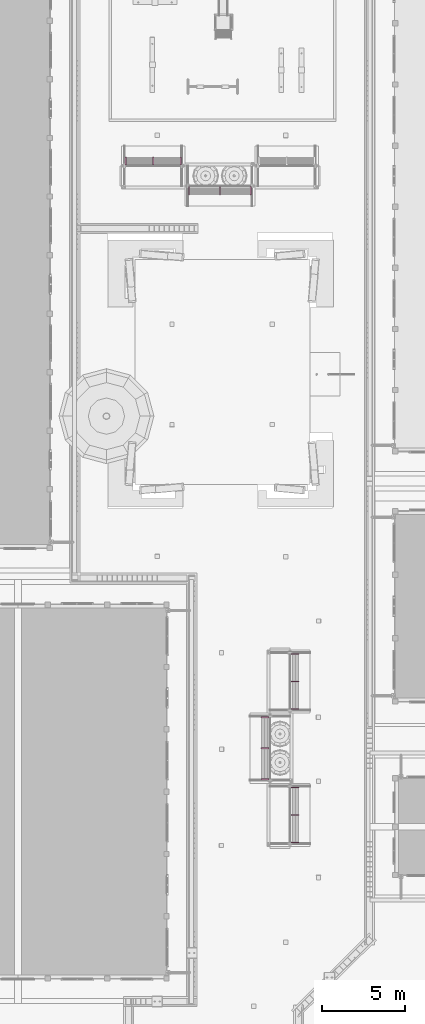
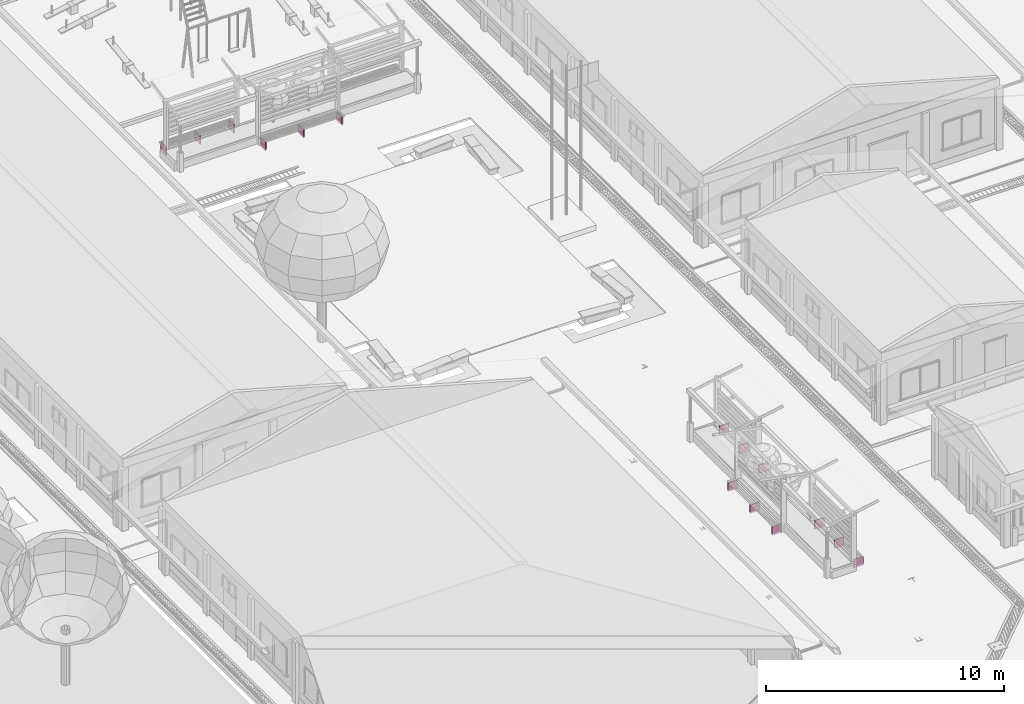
# One storey, part 141 of 166: 15 furnishings.
"""IFC2X3 building model written with IfcOpenShell, lengths in metres."""

from ifc_helpers import new_model, si_unit, origin, origin_with_axes, place, context, subcontext, project, spatial, faceted_brep, element, save


model = new_model("IFC2X3")

# Units and contexts
model_context = context("Model", 3, precision=1e-05, world=origin_with_axes())
body_context = subcontext(model_context, "Body", "Model", "MODEL_VIEW")
ifc_project = project(units=[si_unit("LENGTHUNIT", "METRE"), si_unit("AREAUNIT", "SQUARE_METRE"), si_unit("VOLUMEUNIT", "CUBIC_METRE"), si_unit("PLANEANGLEUNIT", "RADIAN")], contexts=[model_context])

# Site, building, storey
site_placement = place(None, origin_with_axes())
site = spatial("IfcSite", under=ifc_project, at=site_placement, Name="Predio Los Mangos - Morales, San Martín", CompositionType="ELEMENT")
building_placement = place(site_placement, origin())
building = spatial("IfcBuilding", under=site, at=building_placement, Name="Hogar de Refugio Temporal", CompositionType="ELEMENT")
storey_placement = place(building_placement, origin())
storey = spatial("IfcBuildingStorey", under=building, at=storey_placement, Name="NIVEL 1 (NPT +0.00)", CompositionType="ELEMENT", Elevation=0.0)

# Furnishings
furnishing_1_placement = place(storey_placement, origin())
element("IfcFurnishingElement", 1, at=furnishing_1_placement, inside=storey, Name="oc01_pata", ObjectType="Mobiliario exterior / juegos", context=body_context, shape_type="Brep", body=[
    faceted_brep([(39.52, 34.43, 0.0), (39.06, 34.43, 0.0), (39.06, 34.48, 0.0), (39.52, 34.48, 0.0), (39.52, 34.43, 0.44), (39.52, 34.48, 0.44), (39.06, 34.48, 0.44), (39.06, 34.43, 0.44)], [[[0, 1, 2, 3]], [[4, 5, 6, 7]], [[0, 3, 5, 4]], [[3, 2, 6, 5]], [[2, 1, 7, 6]], [[1, 0, 4, 7]]]),
])
furnishing_2_placement = place(storey_placement, origin())
element("IfcFurnishingElement", 2, at=furnishing_2_placement, inside=storey, Name="oc01_pata", ObjectType="Mobiliario exterior / juegos", context=body_context, shape_type="Brep", body=[
    faceted_brep([(39.52, 36.075, 0.0), (39.06, 36.075, 0.0), (39.06, 36.125, 0.0), (39.52, 36.125, 0.0), (39.52, 36.075, 0.44), (39.52, 36.125, 0.44), (39.06, 36.125, 0.44), (39.06, 36.075, 0.44)], [[[0, 1, 2, 3]], [[4, 5, 6, 7]], [[0, 3, 5, 4]], [[3, 2, 6, 5]], [[2, 1, 7, 6]], [[1, 0, 4, 7]]]),
])
furnishing_3_placement = place(storey_placement, origin())
element("IfcFurnishingElement", 3, at=furnishing_3_placement, inside=storey, Name="oc01_pata", ObjectType="Mobiliario exterior / juegos", context=body_context, shape_type="Brep", body=[
    faceted_brep([(39.52, 37.72, 0.0), (39.06, 37.72, 0.0), (39.06, 37.77, 0.0), (39.52, 37.77, 0.0), (39.52, 37.72, 0.44), (39.52, 37.77, 0.44), (39.06, 37.77, 0.44), (39.06, 37.72, 0.44)], [[[0, 1, 2, 3]], [[4, 5, 6, 7]], [[0, 3, 5, 4]], [[3, 2, 6, 5]], [[2, 1, 7, 6]], [[1, 0, 4, 7]]]),
])
furnishing_4_placement = place(storey_placement, origin())
element("IfcFurnishingElement", 4, at=furnishing_4_placement, inside=storey, Name="oc01_pata", ObjectType="Mobiliario exterior / juegos", context=body_context, shape_type="Brep", body=[
    faceted_brep([(37.74, 38.22, 0.0), (37.28, 38.22, 0.0), (37.28, 38.27, 0.0), (37.74, 38.27, 0.0), (37.74, 38.22, 0.44), (37.74, 38.27, 0.44), (37.28, 38.27, 0.44), (37.28, 38.22, 0.44)], [[[0, 1, 2, 3]], [[4, 5, 6, 7]], [[0, 3, 5, 4]], [[3, 2, 6, 5]], [[2, 1, 7, 6]], [[1, 0, 4, 7]]]),
])
furnishing_5_placement = place(storey_placement, origin())
element("IfcFurnishingElement", 5, at=furnishing_5_placement, inside=storey, Name="oc01_pata", ObjectType="Mobiliario exterior / juegos", context=body_context, shape_type="Brep", body=[
    faceted_brep([(37.74, 40.075, 0.0), (37.28, 40.075, 0.0), (37.28, 40.125, 0.0), (37.74, 40.125, 0.0), (37.74, 40.075, 0.44), (37.74, 40.125, 0.44), (37.28, 40.125, 0.44), (37.28, 40.075, 0.44)], [[[0, 1, 2, 3]], [[4, 5, 6, 7]], [[0, 3, 5, 4]], [[3, 2, 6, 5]], [[2, 1, 7, 6]], [[1, 0, 4, 7]]]),
])
furnishing_6_placement = place(storey_placement, origin())
element("IfcFurnishingElement", 6, at=furnishing_6_placement, inside=storey, Name="oc01_pata", ObjectType="Mobiliario exterior / juegos", context=body_context, shape_type="Brep", body=[
    faceted_brep([(37.74, 41.93, 0.0), (37.28, 41.93, 0.0), (37.28, 41.98, 0.0), (37.74, 41.98, 0.0), (37.74, 41.93, 0.44), (37.74, 41.98, 0.44), (37.28, 41.98, 0.44), (37.28, 41.93, 0.44)], [[[0, 1, 2, 3]], [[4, 5, 6, 7]], [[0, 3, 5, 4]], [[3, 2, 6, 5]], [[2, 1, 7, 6]], [[1, 0, 4, 7]]]),
])
furnishing_7_placement = place(storey_placement, origin())
element("IfcFurnishingElement", 7, at=furnishing_7_placement, inside=storey, Name="oc01_pata", ObjectType="Mobiliario exterior / juegos", context=body_context, shape_type="Brep", body=[
    faceted_brep([(39.52, 42.43, 0.0), (39.06, 42.43, 0.0), (39.06, 42.48, 0.0), (39.52, 42.48, 0.0), (39.52, 42.43, 0.44), (39.52, 42.48, 0.44), (39.06, 42.48, 0.44), (39.06, 42.43, 0.44)], [[[0, 1, 2, 3]], [[4, 5, 6, 7]], [[0, 3, 5, 4]], [[3, 2, 6, 5]], [[2, 1, 7, 6]], [[1, 0, 4, 7]]]),
])
furnishing_8_placement = place(storey_placement, origin())
element("IfcFurnishingElement", 8, at=furnishing_8_placement, inside=storey, Name="oc01_pata", ObjectType="Mobiliario exterior / juegos", context=body_context, shape_type="Brep", body=[
    faceted_brep([(39.52, 44.075, 0.0), (39.06, 44.075, 0.0), (39.06, 44.125, 0.0), (39.52, 44.125, 0.0), (39.52, 44.075, 0.44), (39.52, 44.125, 0.44), (39.06, 44.125, 0.44), (39.06, 44.075, 0.44)], [[[0, 1, 2, 3]], [[4, 5, 6, 7]], [[0, 3, 5, 4]], [[3, 2, 6, 5]], [[2, 1, 7, 6]], [[1, 0, 4, 7]]]),
])
furnishing_9_placement = place(storey_placement, origin())
element("IfcFurnishingElement", 9, at=furnishing_9_placement, inside=storey, Name="oc01_pata", ObjectType="Mobiliario exterior / juegos", context=body_context, shape_type="Brep", body=[
    faceted_brep([(39.52, 45.72, 0.0), (39.06, 45.72, 0.0), (39.06, 45.77, 0.0), (39.52, 45.77, 0.0), (39.52, 45.72, 0.44), (39.52, 45.77, 0.44), (39.06, 45.77, 0.44), (39.06, 45.72, 0.44)], [[[0, 1, 2, 3]], [[4, 5, 6, 7]], [[0, 3, 5, 4]], [[3, 2, 6, 5]], [[2, 1, 7, 6]], [[1, 0, 4, 7]]]),
])
furnishing_10_placement = place(storey_placement, origin())
element("IfcFurnishingElement", 10, at=furnishing_10_placement, inside=storey, Name="oc01_pata", ObjectType="Mobiliario exterior / juegos", context=body_context, shape_type="Brep", body=[
    faceted_brep([(36.68, 73.74, 0.0), (36.68, 73.28, 0.0), (36.63, 73.28, 0.0), (36.63, 73.74, 0.0), (36.68, 73.74, 0.44), (36.63, 73.74, 0.44), (36.63, 73.28, 0.44), (36.68, 73.28, 0.44)], [[[0, 1, 2, 3]], [[4, 5, 6, 7]], [[0, 3, 5, 4]], [[3, 2, 6, 5]], [[2, 1, 7, 6]], [[1, 0, 4, 7]]]),
])
furnishing_11_placement = place(storey_placement, origin())
element("IfcFurnishingElement", 11, at=furnishing_11_placement, inside=storey, Name="oc01_pata", ObjectType="Mobiliario exterior / juegos", context=body_context, shape_type="Brep", body=[
    faceted_brep([(34.825, 73.74, 0.0), (34.825, 73.28, 0.0), (34.775, 73.28, 0.0), (34.775, 73.74, 0.0), (34.825, 73.74, 0.44), (34.775, 73.74, 0.44), (34.775, 73.28, 0.44), (34.825, 73.28, 0.44)], [[[0, 1, 2, 3]], [[4, 5, 6, 7]], [[0, 3, 5, 4]], [[3, 2, 6, 5]], [[2, 1, 7, 6]], [[1, 0, 4, 7]]]),
])
furnishing_12_placement = place(storey_placement, origin())
element("IfcFurnishingElement", 12, at=furnishing_12_placement, inside=storey, Name="oc01_pata", ObjectType="Mobiliario exterior / juegos", context=body_context, shape_type="Brep", body=[
    faceted_brep([(32.97, 73.74, 0.0), (32.97, 73.28, 0.0), (32.92, 73.28, 0.0), (32.92, 73.74, 0.0), (32.97, 73.74, 0.44), (32.92, 73.74, 0.44), (32.92, 73.28, 0.44), (32.97, 73.28, 0.44)], [[[0, 1, 2, 3]], [[4, 5, 6, 7]], [[0, 3, 5, 4]], [[3, 2, 6, 5]], [[2, 1, 7, 6]], [[1, 0, 4, 7]]]),
])
furnishing_13_placement = place(storey_placement, origin())
element("IfcFurnishingElement", 13, at=furnishing_13_placement, inside=storey, Name="oc01_pata", ObjectType="Mobiliario exterior / juegos", context=body_context, shape_type="Brep", body=[
    faceted_brep([(32.47, 75.52, 0.0), (32.47, 75.06, 0.0), (32.42, 75.06, 0.0), (32.42, 75.52, 0.0), (32.47, 75.52, 0.44), (32.42, 75.52, 0.44), (32.42, 75.06, 0.44), (32.47, 75.06, 0.44)], [[[0, 1, 2, 3]], [[4, 5, 6, 7]], [[0, 3, 5, 4]], [[3, 2, 6, 5]], [[2, 1, 7, 6]], [[1, 0, 4, 7]]]),
])
furnishing_14_placement = place(storey_placement, origin())
element("IfcFurnishingElement", 14, at=furnishing_14_placement, inside=storey, Name="oc01_pata", ObjectType="Mobiliario exterior / juegos", context=body_context, shape_type="Brep", body=[
    faceted_brep([(30.825, 75.52, 0.0), (30.825, 75.06, 0.0), (30.775, 75.06, 0.0), (30.775, 75.52, 0.0), (30.825, 75.52, 0.44), (30.775, 75.52, 0.44), (30.775, 75.06, 0.44), (30.825, 75.06, 0.44)], [[[0, 1, 2, 3]], [[4, 5, 6, 7]], [[0, 3, 5, 4]], [[3, 2, 6, 5]], [[2, 1, 7, 6]], [[1, 0, 4, 7]]]),
])
furnishing_15_placement = place(storey_placement, origin())
element("IfcFurnishingElement", 15, at=furnishing_15_placement, inside=storey, Name="oc01_pata", ObjectType="Mobiliario exterior / juegos", context=body_context, shape_type="Brep", body=[
    faceted_brep([(29.18, 75.52, 0.0), (29.18, 75.06, 0.0), (29.13, 75.06, 0.0), (29.13, 75.52, 0.0), (29.18, 75.52, 0.44), (29.13, 75.52, 0.44), (29.13, 75.06, 0.44), (29.18, 75.06, 0.44)], [[[0, 1, 2, 3]], [[4, 5, 6, 7]], [[0, 3, 5, 4]], [[3, 2, 6, 5]], [[2, 1, 7, 6]], [[1, 0, 4, 7]]]),
])

save(model, "model.ifc")
